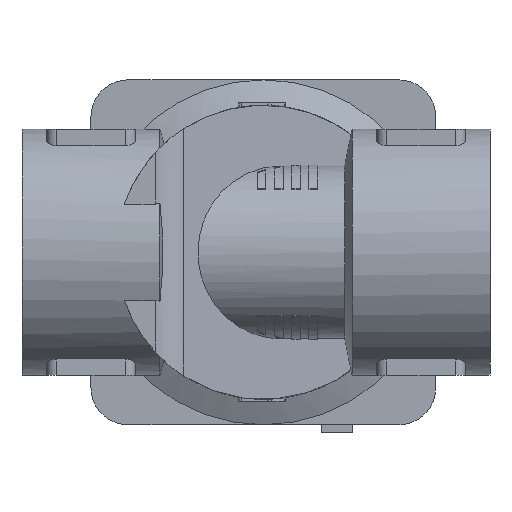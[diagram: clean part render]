
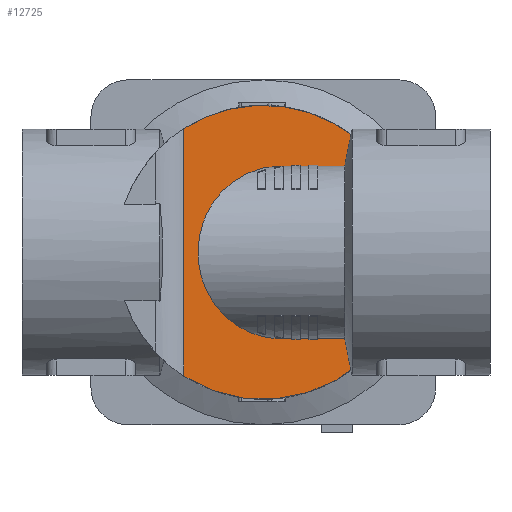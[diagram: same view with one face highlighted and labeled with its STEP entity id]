
A CAD part, front view. The second image highlights one B-rep face of the part: STEP entity #12725.
In plain terms, the highlighted planar face has unit normal (0.724, -0.69, 0).
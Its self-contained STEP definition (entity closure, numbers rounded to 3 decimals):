
#60=ELLIPSE('',#13298,43.243,29.85);
#65=ELLIPSE('',#13310,43.243,29.85);
#76=ELLIPSE('',#13340,24.186,17.5);
#83=ELLIPSE('',#13441,34.552,25.);
#84=ELLIPSE('',#13442,34.552,25.);
#119=B_SPLINE_CURVE_WITH_KNOTS('',3,(#17965,#17966,#17967,#17968),
 .UNSPECIFIED.,.F.,.F.,(4,4),(0.,0.002),
 .UNSPECIFIED.);
#120=B_SPLINE_CURVE_WITH_KNOTS('',3,(#17980,#17981,#17982,#17983),
 .UNSPECIFIED.,.F.,.F.,(4,4),(0.007,0.009),
 .UNSPECIFIED.);
#429=LINE('',#17698,#1540);
#431=LINE('',#17702,#1542);
#522=LINE('',#17973,#1633);
#523=LINE('',#17975,#1634);
#524=LINE('',#17976,#1635);
#525=LINE('',#17985,#1636);
#526=LINE('',#17986,#1637);
#1540=VECTOR('',#14632,1000.);
#1542=VECTOR('',#14636,1000.);
#1633=VECTOR('',#14903,1000.);
#1634=VECTOR('',#14904,1000.);
#1635=VECTOR('',#14905,1000.);
#1636=VECTOR('',#14908,1000.);
#1637=VECTOR('',#14909,1000.);
#3278=ORIENTED_EDGE('',*,*,#5924,.F.);
#3279=ORIENTED_EDGE('',*,*,#5925,.F.);
#3280=ORIENTED_EDGE('',*,*,#5926,.F.);
#3281=ORIENTED_EDGE('',*,*,#5927,.F.);
#3282=ORIENTED_EDGE('',*,*,#5698,.F.);
#3283=ORIENTED_EDGE('',*,*,#5793,.T.);
#3284=ORIENTED_EDGE('',*,*,#5722,.F.);
#3285=ORIENTED_EDGE('',*,*,#5795,.F.);
#3286=ORIENTED_EDGE('',*,*,#5928,.F.);
#3287=ORIENTED_EDGE('',*,*,#5929,.F.);
#3288=ORIENTED_EDGE('',*,*,#5930,.F.);
#3289=ORIENTED_EDGE('',*,*,#5931,.F.);
#3290=ORIENTED_EDGE('',*,*,#5768,.T.);
#3291=ORIENTED_EDGE('',*,*,#5932,.F.);
#5698=EDGE_CURVE('',#7121,#7122,#60,.F.);
#5722=EDGE_CURVE('',#7145,#7146,#65,.F.);
#5768=EDGE_CURVE('',#7192,#7191,#76,.F.);
#5793=EDGE_CURVE('',#7121,#7146,#429,.T.);
#5795=EDGE_CURVE('',#7210,#7145,#431,.T.);
#5924=EDGE_CURVE('',#7288,#7289,#119,.T.);
#5925=EDGE_CURVE('',#7290,#7288,#83,.T.);
#5926=EDGE_CURVE('',#7291,#7290,#522,.T.);
#5927=EDGE_CURVE('',#7122,#7291,#523,.T.);
#5928=EDGE_CURVE('',#7292,#7210,#524,.T.);
#5929=EDGE_CURVE('',#7293,#7292,#84,.T.);
#5930=EDGE_CURVE('',#7294,#7293,#120,.T.);
#5931=EDGE_CURVE('',#7192,#7294,#525,.T.);
#5932=EDGE_CURVE('',#7289,#7191,#526,.T.);
#7121=VERTEX_POINT('',#17410);
#7122=VERTEX_POINT('',#17412);
#7145=VERTEX_POINT('',#17499);
#7146=VERTEX_POINT('',#17501);
#7191=VERTEX_POINT('',#17632);
#7192=VERTEX_POINT('',#17634);
#7210=VERTEX_POINT('',#17701);
#7288=VERTEX_POINT('',#17969);
#7289=VERTEX_POINT('',#17970);
#7290=VERTEX_POINT('',#17972);
#7291=VERTEX_POINT('',#17974);
#7292=VERTEX_POINT('',#17977);
#7293=VERTEX_POINT('',#17979);
#7294=VERTEX_POINT('',#17984);
#8423=EDGE_LOOP('',(#3278,#3279,#3280,#3281,#3282,#3283,#3284,#3285,#3286,
#3287,#3288,#3289,#3290,#3291));
#9018=FACE_BOUND('',#8423,.T.);
#9551=PLANE('',#13440);
#12725=ADVANCED_FACE('',(#9018),#9551,.T.);
#13298=AXIS2_PLACEMENT_3D('',#17411,#14496,#14497);
#13310=AXIS2_PLACEMENT_3D('',#17500,#14524,#14525);
#13340=AXIS2_PLACEMENT_3D('',#17633,#14593,#14594);
#13440=AXIS2_PLACEMENT_3D('',#17964,#14899,#14900);
#13441=AXIS2_PLACEMENT_3D('',#17971,#14901,#14902);
#13442=AXIS2_PLACEMENT_3D('',#17978,#14906,#14907);
#14496=DIRECTION('',(0.724,-0.69,0.));
#14497=DIRECTION('',(0.69,0.724,0.));
#14524=DIRECTION('',(0.724,-0.69,0.));
#14525=DIRECTION('',(0.69,0.724,0.));
#14593=DIRECTION('',(0.724,-0.69,0.));
#14594=DIRECTION('',(-0.69,-0.724,0.));
#14632=DIRECTION('',(0.,0.,-1.));
#14636=DIRECTION('',(0.,0.,-1.));
#14899=DIRECTION('',(0.724,-0.69,0.));
#14900=DIRECTION('',(0.69,0.724,0.));
#14901=DIRECTION('',(0.724,-0.69,0.));
#14902=DIRECTION('',(0.69,0.724,0.));
#14903=DIRECTION('',(-0.69,-0.724,0.));
#14904=DIRECTION('',(0.,0.,-1.));
#14905=DIRECTION('',(0.69,0.724,0.));
#14906=DIRECTION('',(0.724,-0.69,0.));
#14907=DIRECTION('',(0.69,0.724,0.));
#14908=DIRECTION('',(0.69,0.724,0.));
#14909=DIRECTION('',(-0.69,-0.724,0.));
#17410=CARTESIAN_POINT('',(-16.136,-20.522,25.113));
#17411=CARTESIAN_POINT('',(0.,-3.608,0.));
#17412=CARTESIAN_POINT('',(23.,20.5,19.027));
#17499=CARTESIAN_POINT('',(23.,20.5,-19.027));
#17500=CARTESIAN_POINT('',(0.,-3.608,0.));
#17501=CARTESIAN_POINT('',(-16.136,-20.522,-25.113));
#17632=CARTESIAN_POINT('',(3.443,0.,17.5));
#17633=CARTESIAN_POINT('',(3.443,0.,0.));
#17634=CARTESIAN_POINT('',(3.443,0.,-17.5));
#17698=CARTESIAN_POINT('',(-16.136,-20.522,70.));
#17701=CARTESIAN_POINT('',(23.,20.5,-17.5));
#17702=CARTESIAN_POINT('',(23.,20.5,70.));
#17964=CARTESIAN_POINT('',(23.,20.5,70.));
#17965=CARTESIAN_POINT('',(18.,15.259,19.803));
#17966=CARTESIAN_POINT('',(17.861,15.113,19.036));
#17967=CARTESIAN_POINT('',(17.723,14.969,18.268));
#17968=CARTESIAN_POINT('',(17.587,14.826,17.5));
#17969=CARTESIAN_POINT('',(18.,15.259,19.803));
#17970=CARTESIAN_POINT('',(17.587,14.826,17.5));
#17971=CARTESIAN_POINT('',(3.443,0.,0.));
#17972=CARTESIAN_POINT('',(20.475,17.854,17.5));
#17973=CARTESIAN_POINT('',(23.,20.5,17.5));
#17974=CARTESIAN_POINT('',(23.,20.5,17.5));
#17975=CARTESIAN_POINT('',(23.,20.5,70.));
#17976=CARTESIAN_POINT('',(23.,20.5,-17.5));
#17977=CARTESIAN_POINT('',(20.475,17.854,-17.5));
#17978=CARTESIAN_POINT('',(3.443,0.,0.));
#17979=CARTESIAN_POINT('',(18.,15.259,-19.803));
#17980=CARTESIAN_POINT('',(17.587,14.826,-17.5));
#17981=CARTESIAN_POINT('',(17.723,14.969,-18.268));
#17982=CARTESIAN_POINT('',(17.861,15.113,-19.036));
#17983=CARTESIAN_POINT('',(18.,15.259,-19.803));
#17984=CARTESIAN_POINT('',(17.587,14.826,-17.5));
#17985=CARTESIAN_POINT('',(23.,20.5,-17.5));
#17986=CARTESIAN_POINT('',(23.,20.5,17.5));
